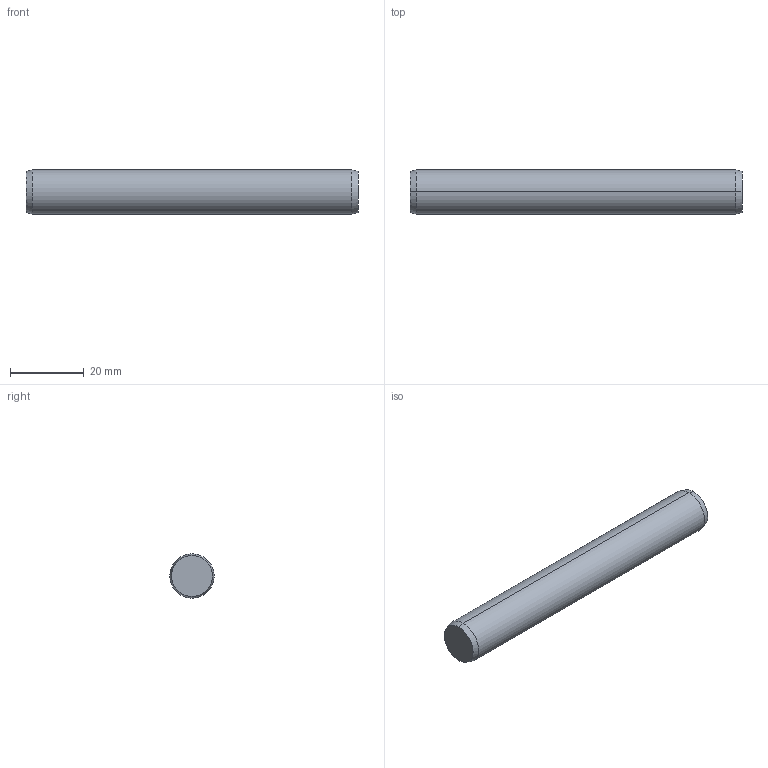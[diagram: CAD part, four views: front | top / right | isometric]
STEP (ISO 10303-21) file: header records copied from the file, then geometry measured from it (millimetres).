
FILE_DESCRIPTION (( 'STEP AP203' ), '1' );
FILE_NAME ('P1206.120-090.step', '2017-06-14T08:40:46', ( 'User' ), ( '' ), 'SwSTEP 2.0', 'SolidWorks 2009', '' );
FILE_SCHEMA (( 'CONFIG_CONTROL_DESIGN' ));
Length unit declared in the file: millimetre
Products named in the file (1): P1206.120-090
Bounding box: 90 x 12 x 12 mm (x, y, z)
Volume: 10150.3 mm3; surface area: 3585.6 mm2
Topology: 1 solids, 1 shells, 8 faces, 14 edges, 8 vertices
Faces by surface type: cone 4, cylinder 2, plane 2
Entity records: 271 total; most frequent: DIRECTION 40, CARTESIAN_POINT 31, ORIENTED_EDGE 28, AXIS2_PLACEMENT_3D 17, EDGE_CURVE 14, FACE_OUTER_BOUND 8, EDGE_LOOP 8, ADVANCED_FACE 8
